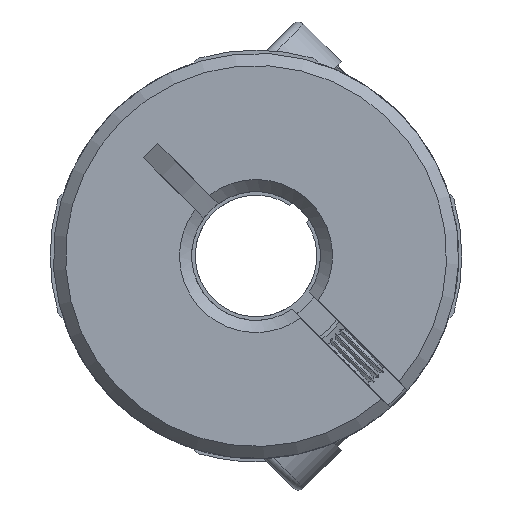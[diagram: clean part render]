
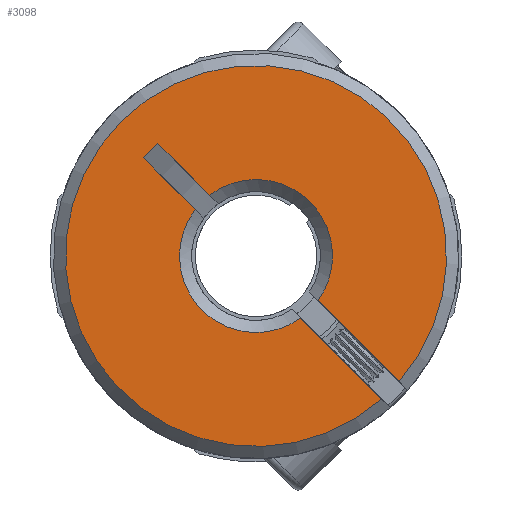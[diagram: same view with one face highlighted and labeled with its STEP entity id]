
A CAD part, front view. The second image highlights one B-rep face of the part: STEP entity #3098.
In plain terms, the highlighted planar face has unit normal (0, -1, 0).
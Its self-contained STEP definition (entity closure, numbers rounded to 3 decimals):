
#560 = CARTESIAN_POINT ( 'NONE',  ( 2.211, -12.6, -3.06 ) ) ;
#701 = CARTESIAN_POINT ( 'NONE',  ( -2.292, -12.6, 2.999 ) ) ;
#1078 = LINE ( 'NONE', #8711, #8889 ) ;
#1326 = VERTEX_POINT ( 'NONE', #8853 ) ;
#1359 = CARTESIAN_POINT ( 'NONE',  ( -2.999, -12.6, 2.292 ) ) ;
#1647 = DIRECTION ( 'NONE',  ( 0.707, 0., -0.707 ) ) ;
#1748 = VECTOR ( 'NONE', #7765, 1000. ) ;
#2577 = VERTEX_POINT ( 'NONE', #5628 ) ;
#2646 = DIRECTION ( 'NONE',  ( 0., 1., 0. ) ) ;
#2695 = CARTESIAN_POINT ( 'NONE',  ( -4.842, -12.6, 5.549 ) ) ;
#2701 = CIRCLE ( 'NONE', #12745, 3.775 ) ;
#2739 = DIRECTION ( 'NONE',  ( 0., 1., 0. ) ) ;
#2956 = EDGE_CURVE ( 'NONE', #2577, #3321, #7977, .T. ) ;
#3098 = ADVANCED_FACE ( 'NONE', ( #8445 ), #6883, .F. ) ;
#3321 = VERTEX_POINT ( 'NONE', #7234 ) ;
#3566 = EDGE_CURVE ( 'NONE', #12253, #4589, #8755, .T. ) ;
#3814 = EDGE_LOOP ( 'NONE', ( #5431, #10978, #6503, #10621, #9544, #10570, #5166, #6454 ) ) ;
#3963 = CARTESIAN_POINT ( 'NONE',  ( -5.549, -12.6, 4.842 ) ) ;
#4077 = CARTESIAN_POINT ( 'NONE',  ( 1.78, -12.6, -2.629 ) ) ;
#4473 = LINE ( 'NONE', #4077, #5585 ) ;
#4589 = VERTEX_POINT ( 'NONE', #1359 ) ;
#4698 = EDGE_CURVE ( 'NONE', #5307, #4793, #1078, .T. ) ;
#4718 = CARTESIAN_POINT ( 'NONE',  ( 2.629, -12.6, -1.78 ) ) ;
#4780 = EDGE_CURVE ( 'NONE', #4793, #4589, #10785, .T. ) ;
#4793 = VERTEX_POINT ( 'NONE', #3963 ) ;
#4987 = DIRECTION ( 'NONE',  ( 0.707, 0., -0.707 ) ) ;
#5119 = DIRECTION ( 'NONE',  ( 0.707, 0., -0.707 ) ) ;
#5166 = ORIENTED_EDGE ( 'NONE', *, *, #4780, .F. ) ;
#5307 = VERTEX_POINT ( 'NONE', #2695 ) ;
#5431 = ORIENTED_EDGE ( 'NONE', *, *, #8072, .T. ) ;
#5585 = VECTOR ( 'NONE', #5119, 1000. ) ;
#5628 = CARTESIAN_POINT ( 'NONE',  ( 7.058, -12.6, -6.209 ) ) ;
#5683 = DIRECTION ( 'NONE',  ( 0., 1., 0. ) ) ;
#6454 = ORIENTED_EDGE ( 'NONE', *, *, #4698, .F. ) ;
#6503 = ORIENTED_EDGE ( 'NONE', *, *, #2956, .F. ) ;
#6648 = CARTESIAN_POINT ( 'NONE',  ( 0., -12.6, 0. ) ) ;
#6883 = PLANE ( 'NONE',  #13020 ) ;
#6888 = VECTOR ( 'NONE', #8619, 1000. ) ;
#7234 = CARTESIAN_POINT ( 'NONE',  ( 3.06, -12.6, -2.211 ) ) ;
#7606 = CARTESIAN_POINT ( 'NONE',  ( 5.657, -12.6, -4.95 ) ) ;
#7765 = DIRECTION ( 'NONE',  ( -0.707, 0., 0.707 ) ) ;
#7911 = CARTESIAN_POINT ( 'NONE',  ( 4.95, -12.6, -5.657 ) ) ;
#7921 = DIRECTION ( 'NONE',  ( 0., -1., 0. ) ) ;
#7977 = LINE ( 'NONE', #4718, #1748 ) ;
#8071 = CIRCLE ( 'NONE', #8602, 9.4 ) ;
#8072 = EDGE_CURVE ( 'NONE', #5307, #11860, #11166, .T. ) ;
#8099 = VECTOR ( 'NONE', #10923, 1000. ) ;
#8445 = FACE_OUTER_BOUND ( 'NONE', #3814, .T. ) ;
#8602 = AXIS2_PLACEMENT_3D ( 'NONE', #8940, #7921, #9924 ) ;
#8619 = DIRECTION ( 'NONE',  ( 0.707, 0., -0.707 ) ) ;
#8711 = CARTESIAN_POINT ( 'NONE',  ( -4.842, -12.6, 5.549 ) ) ;
#8732 = CARTESIAN_POINT ( 'NONE',  ( 0., -12.6, 0. ) ) ;
#8755 = CIRCLE ( 'NONE', #9800, 3.775 ) ;
#8853 = CARTESIAN_POINT ( 'NONE',  ( 6.209, -12.6, -7.058 ) ) ;
#8889 = VECTOR ( 'NONE', #10705, 1000. ) ;
#8940 = CARTESIAN_POINT ( 'NONE',  ( 0., -12.6, 0. ) ) ;
#9373 = EDGE_CURVE ( 'NONE', #11860, #3321, #2701, .T. ) ;
#9522 = EDGE_CURVE ( 'NONE', #12253, #1326, #4473, .T. ) ;
#9544 = ORIENTED_EDGE ( 'NONE', *, *, #9522, .F. ) ;
#9752 = DIRECTION ( 'NONE',  ( 0.707, 0., -0.707 ) ) ;
#9800 = AXIS2_PLACEMENT_3D ( 'NONE', #6648, #5683, #9752 ) ;
#9924 = DIRECTION ( 'NONE',  ( 0.707, 0., -0.707 ) ) ;
#10570 = ORIENTED_EDGE ( 'NONE', *, *, #3566, .T. ) ;
#10621 = ORIENTED_EDGE ( 'NONE', *, *, #11468, .T. ) ;
#10705 = DIRECTION ( 'NONE',  ( -0.707, 0., -0.707 ) ) ;
#10785 = LINE ( 'NONE', #7911, #8099 ) ;
#10865 = CARTESIAN_POINT ( 'NONE',  ( 342.528, -12.6, 364.579 ) ) ;
#10923 = DIRECTION ( 'NONE',  ( 0.707, 0., -0.707 ) ) ;
#10978 = ORIENTED_EDGE ( 'NONE', *, *, #9373, .T. ) ;
#11166 = LINE ( 'NONE', #7606, #6888 ) ;
#11468 = EDGE_CURVE ( 'NONE', #2577, #1326, #8071, .T. ) ;
#11860 = VERTEX_POINT ( 'NONE', #701 ) ;
#12253 = VERTEX_POINT ( 'NONE', #560 ) ;
#12745 = AXIS2_PLACEMENT_3D ( 'NONE', #8732, #2646, #1647 ) ;
#13020 = AXIS2_PLACEMENT_3D ( 'NONE', #10865, #2739, #4987 ) ;
